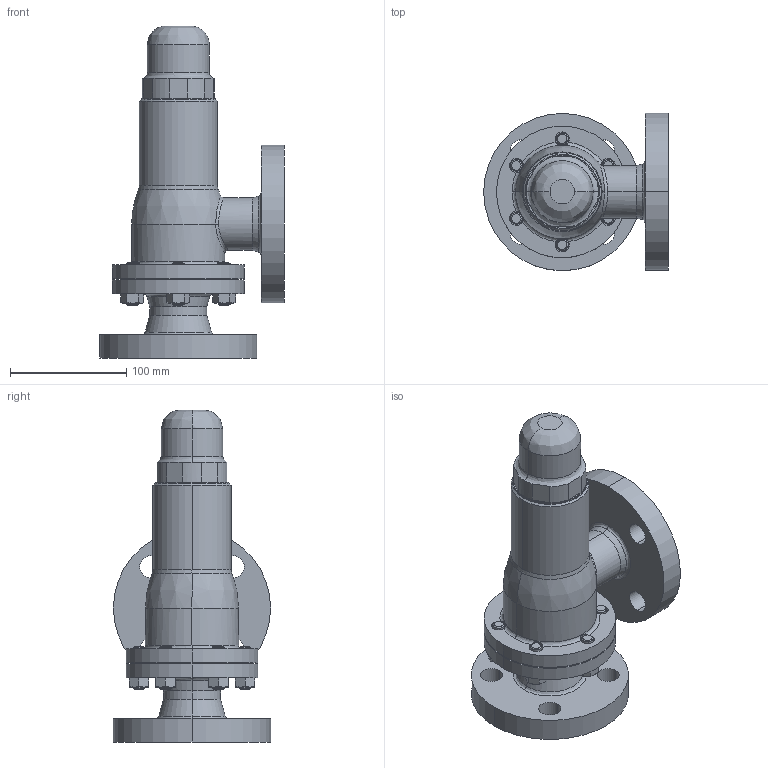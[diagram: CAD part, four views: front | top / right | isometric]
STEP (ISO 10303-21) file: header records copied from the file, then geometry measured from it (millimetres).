
FILE_DESCRIPTION( (''), '2;1');
FILE_NAME ('PC1029.10648.AL-300,301,300T,301T 32A_12470.stp','2024-12-13T15:36:39',(''),(''),'spGate 19.8.4 (****-****-****-****)','','');
FILE_SCHEMA (('AUTOMOTIVE_DESIGN'));
Length unit declared in the file: millimetre
Products named in the file (4): Assembly; 弁箱・ばね箱　32A; スタッドボルト＆ナット32-50A; AL-300 32-50A キャップ
Assembly tree (8 placements, depth 2):
  Assembly
    弁箱・ばね箱　32A
    スタッドボルト＆ナット32-50A  x6
    AL-300 32-50A キャップ
Bounding box: 158.5 x 135 x 285 mm (x, y, z)
Volume: 1612372.6 mm3; surface area: 183510.3 mm2
Topology: 8 solids, 8 shells, 244 faces, 594 edges, 381 vertices
Faces by surface type: cylinder 96, plane 86, bspline 62
Entity records: 8633 total; most frequent: CARTESIAN_POINT 2278, ORIENTED_EDGE 738, DIRECTION 682, COLOUR_RGB 516, PRESENTATION_STYLE_ASSIGNMENT 516, STYLED_ITEM 516, EDGE_CURVE 369, DRAUGHTING_PRE_DEFINED_CURVE_FONT 369
